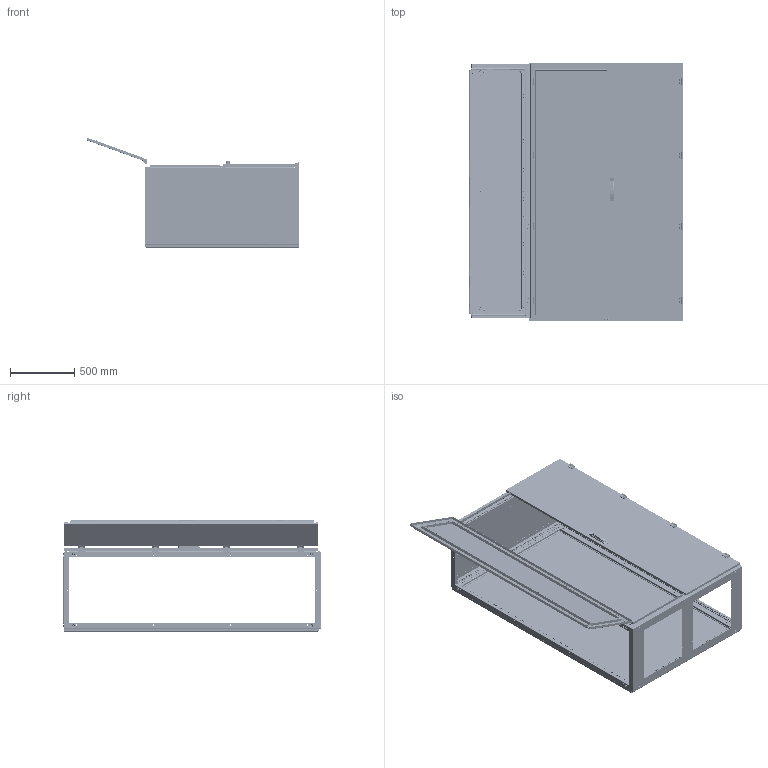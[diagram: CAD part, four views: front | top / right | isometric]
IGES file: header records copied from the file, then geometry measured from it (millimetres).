
Start section: SolidWorks IGES file using analytic representation for surfaces
Global section: file name: U:\14_RD\05_Technical_office\04_Office\Hrdinova\3D modely - IGES\Distri\QA201206.IGS; native system: SolidWorks 2011; preprocessor: SolidWorks 2011; author: adhrja3; date: 170613.115929; units: millimetre
Bounding box: 1668.78 x 2004.5 x 862.7 mm (x, y, z)
Surface area: 18482012.7 mm2 (no closed solid volume)
Topology: 0 solids, 0 shells, 9301 faces, 158591 edges, 158276 vertices
Faces by surface type: bspline 4885, revolution 4416
